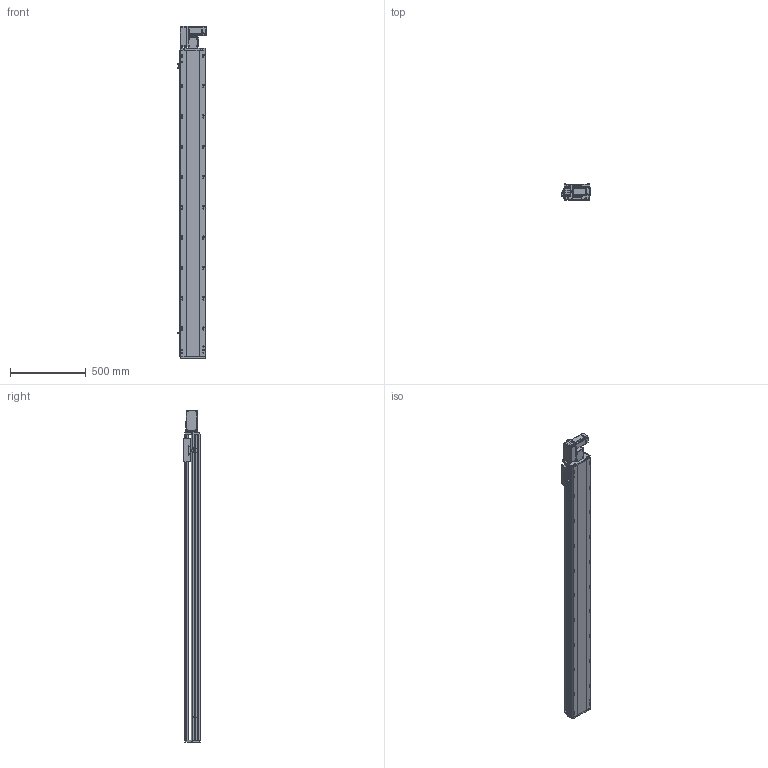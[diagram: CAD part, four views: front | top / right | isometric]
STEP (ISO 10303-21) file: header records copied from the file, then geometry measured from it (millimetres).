
FILE_DESCRIPTION (( 'STEP AP214' ), '1' );
FILE_NAME ('RTB17S-XX-1750-L-M40-C4.STEP', '2025-12-11T05:48:28', ( '' ), ( '' ), 'SwSTEP 2.0', 'SolidWorks 2018', '' );
FILE_SCHEMA (( 'AUTOMOTIVE_DESIGN' ));
Length unit declared in the file: millimetre
Products named in the file (14): RTB17-R-011底座^RTB17S-XX-XX-L-M40-C4（方程式）; RTB14-L-018P^RTB17S-L-皮带座装配-400W_RTB17S-XX-XX-L-M40-C4（方程式）; RTB14-L-017P^RTB17S-L-皮带座装配-400W_RTB17S-XX-XX-L-M40-C4（方程式）; RTB14-L-005P--轴承塑胶压盖^RTB17S-L-皮带座装配-400W_RTB17S-XX-XX-L-M40-C4（方程式）; RTB17S-L-001侧面板^RTB17S-XX-XX-L-M40-C4（方程式）; RTB14-L-008-M20--电机板^RTB17S-L-皮带座装配-400W_RTB17S-XX-XX-L-M40-C4（方程式）; RTB17S-L-004丝杆螺母连接座^RTB17S-XX-XX-L-M40-C4（方程式）; RTB17S-XX-1750-L-M40-C4; OMRON EE-SX672 传感器^RTB17S-XX-XX-L-M40-C4（方程式）; RTB17S-L-007上盖^RTB17S-XX-XX-L-M40-C4（方程式）; RTH13-BL-012感应片外置^RTB17S-XX-XX-L-M40-C4（方程式）; RTB17S-L-皮带座装配-400W^RTB17S-XX-XX-L-M40-C4（方程式）; 400W伺服电机^RTB17S-XX-XX-L-M40-C4（方程式）; RMP17S-L-014-T20--皮带座^RTB17S-L-皮带座装配-400W_RTB17S-XX-XX-L-M40-C4（方程式）
Assembly tree (16 placements, depth 3):
  RTB17S-XX-1750-L-M40-C4
    RTB17-R-011底座^RTB17S-XX-XX-L-M40-C4（方程式）
    RTB17S-L-007上盖^RTB17S-XX-XX-L-M40-C4（方程式）
    OMRON EE-SX672 传感器^RTB17S-XX-XX-L-M40-C4（方程式）  x3
    RTB17S-L-001侧面板^RTB17S-XX-XX-L-M40-C4（方程式）
    400W伺服电机^RTB17S-XX-XX-L-M40-C4（方程式）
    RTB17S-L-004丝杆螺母连接座^RTB17S-XX-XX-L-M40-C4（方程式）
    RTH13-BL-012感应片外置^RTB17S-XX-XX-L-M40-C4（方程式）
    RTB17S-L-皮带座装配-400W^RTB17S-XX-XX-L-M40-C4（方程式）
      RMP17S-L-014-T20--皮带座^RTB17S-L-皮带座装配-400W_RTB17S-XX-XX-L-M40-C4（方程式）
      RTB14-L-005P--轴承塑胶压盖^RTB17S-L-皮带座装配-400W_RTB17S-XX-XX-L-M40-C4（方程式）
      RTB14-L-008-M20--电机板^RTB17S-L-皮带座装配-400W_RTB17S-XX-XX-L-M40-C4（方程式）
      RTB14-L-017P^RTB17S-L-皮带座装配-400W_RTB17S-XX-XX-L-M40-C4（方程式）  x2
      RTB14-L-018P^RTB17S-L-皮带座装配-400W_RTB17S-XX-XX-L-M40-C4（方程式）
Bounding box: 186 x 108 x 2191 mm (x, y, z)
Volume: 18490544.7 mm3; surface area: 2165033.4 mm2
Topology: 15 solids, 15 shells, 2269 faces, 6303 edges, 4113 vertices
Faces by surface type: plane 1076, cylinder 745, bspline 301, cone 139, torus 8
Entity records: 65705 total; most frequent: CARTESIAN_POINT 18508, ORIENTED_EDGE 9450, DIRECTION 8756, EDGE_CURVE 4725, VERTEX_POINT 3101, AXIS2_PLACEMENT_3D 3031, LINE 2694, VECTOR 2694
